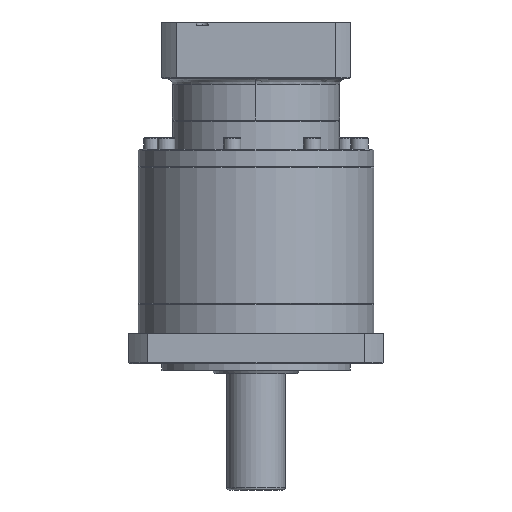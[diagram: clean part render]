
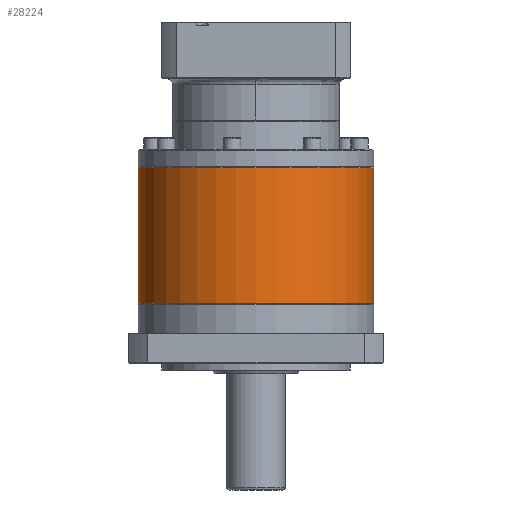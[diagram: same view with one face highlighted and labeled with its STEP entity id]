
A CAD part, left-side view. The second image highlights one B-rep face of the part: STEP entity #28224.
In plain terms, the highlighted cylindrical face has radius 81 mm (diameter 162 mm), a partial arc.
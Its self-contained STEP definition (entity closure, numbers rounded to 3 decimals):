
#1743 = CARTESIAN_POINT ( 'NONE',  ( -129.032, 61.212, -75.792 ) ) ;
#3319 = ORIENTED_EDGE ( 'NONE', *, *, #12859, .F. ) ;
#3949 = EDGE_CURVE ( 'NONE', #58445, #66251, #106260, .T. ) ;
#6713 = CARTESIAN_POINT ( 'NONE',  ( -129.032, -19.788, -169.292 ) ) ;
#8533 = VECTOR ( 'NONE', #89596, 1000. ) ;
#12859 = EDGE_CURVE ( 'NONE', #58445, #28367, #61873, .T. ) ;
#19823 = CARTESIAN_POINT ( 'NONE',  ( -129.032, 142.212, -75.792 ) ) ;
#19875 = CARTESIAN_POINT ( 'NONE',  ( -129.032, 61.212, -75.292 ) ) ;
#26930 = EDGE_LOOP ( 'NONE', ( #3319, #87212, #34823, #82964 ) ) ;
#27569 = DIRECTION ( 'NONE',  ( 0., 0., -1. ) ) ;
#28224 = ADVANCED_FACE ( 'NONE', ( #30830 ), #108146, .T. ) ;
#28367 = VERTEX_POINT ( 'NONE', #6713 ) ;
#30830 = FACE_OUTER_BOUND ( 'NONE', #26930, .T. ) ;
#32193 = CARTESIAN_POINT ( 'NONE',  ( -129.032, 61.212, -169.292 ) ) ;
#34823 = ORIENTED_EDGE ( 'NONE', *, *, #72393, .T. ) ;
#41460 = DIRECTION ( 'NONE',  ( 0., 1., 0. ) ) ;
#42400 = LINE ( 'NONE', #63111, #89013 ) ;
#44656 = DIRECTION ( 'NONE',  ( 0., 1., 0. ) ) ;
#46071 = EDGE_CURVE ( 'NONE', #61444, #28367, #65697, .T. ) ;
#48489 = DIRECTION ( 'NONE',  ( 0., 1., 0. ) ) ;
#48999 = CARTESIAN_POINT ( 'NONE',  ( -129.032, 142.212, -169.292 ) ) ;
#53555 = AXIS2_PLACEMENT_3D ( 'NONE', #32193, #109740, #41460 ) ;
#55600 = DIRECTION ( 'NONE',  ( 0., 0., -1. ) ) ;
#58445 = VERTEX_POINT ( 'NONE', #86716 ) ;
#61444 = VERTEX_POINT ( 'NONE', #48999 ) ;
#61873 = LINE ( 'NONE', #98570, #8533 ) ;
#63111 = CARTESIAN_POINT ( 'NONE',  ( -129.032, 142.212, -75.292 ) ) ;
#65697 = CIRCLE ( 'NONE', #53555, 81. ) ;
#66251 = VERTEX_POINT ( 'NONE', #19823 ) ;
#71675 = DIRECTION ( 'NONE',  ( 0., 0., -1. ) ) ;
#72393 = EDGE_CURVE ( 'NONE', #66251, #61444, #42400, .T. ) ;
#78871 = AXIS2_PLACEMENT_3D ( 'NONE', #19875, #55600, #48489 ) ;
#82964 = ORIENTED_EDGE ( 'NONE', *, *, #46071, .T. ) ;
#86716 = CARTESIAN_POINT ( 'NONE',  ( -129.032, -19.788, -75.792 ) ) ;
#87212 = ORIENTED_EDGE ( 'NONE', *, *, #3949, .T. ) ;
#89013 = VECTOR ( 'NONE', #71675, 1000. ) ;
#89596 = DIRECTION ( 'NONE',  ( 0., 0., -1. ) ) ;
#98570 = CARTESIAN_POINT ( 'NONE',  ( -129.032, -19.788, -75.292 ) ) ;
#106260 = CIRCLE ( 'NONE', #109776, 81. ) ;
#108146 = CYLINDRICAL_SURFACE ( 'NONE', #78871, 81. ) ;
#109740 = DIRECTION ( 'NONE',  ( 0., 0., 1. ) ) ;
#109776 = AXIS2_PLACEMENT_3D ( 'NONE', #1743, #27569, #44656 ) ;
